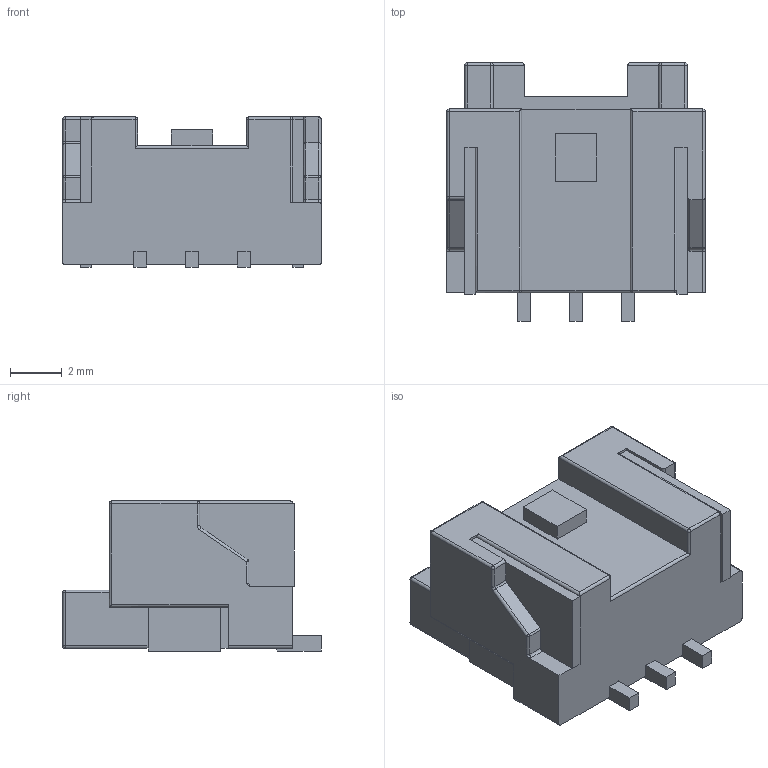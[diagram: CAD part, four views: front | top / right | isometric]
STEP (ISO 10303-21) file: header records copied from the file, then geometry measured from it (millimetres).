
FILE_DESCRIPTION( ( '' ), ' ' );
FILE_NAME( '/vol/tmp/translate-7147837837535982305/5c34835a6fd562150c968e03.step', '2019-01-08T11:02:50', ( '' ), ( '' ), ' ', ' ', ' ' );
FILE_SCHEMA( ( 'AUTOMOTIVE_DESIGN { 1 0 10303 214 1 1 1 1 }' ) );
Length unit declared in the file: metre
Products named in the file (11): Open CASCADE STEP translator 6.8 5; Open CASCADE STEP translator 6.8 4; Open CASCADE STEP translator 6.8 3; Open CASCADE STEP translator 6.8 2; Open CASCADE STEP translator 6.8 1
Bounding box: 10 x 10 x 5.8 mm (x, y, z)
Volume: 292.7 mm3; surface area: 657.8 mm2
Topology: 11 solids, 11 shells, 212 faces, 498 edges, 309 vertices
Faces by surface type: plane 134, cylinder 59, sphere 15, torus 4
Entity records: 10262 total; most frequent: DIRECTION 1046, CARTESIAN_POINT 1040, ORIENTED_EDGE 996, STYLED_ITEM 710, PRESENTATION_STYLE_ASSIGNMENT 710, COLOUR_RGB 710, EDGE_CURVE 498, CURVE_STYLE 498
